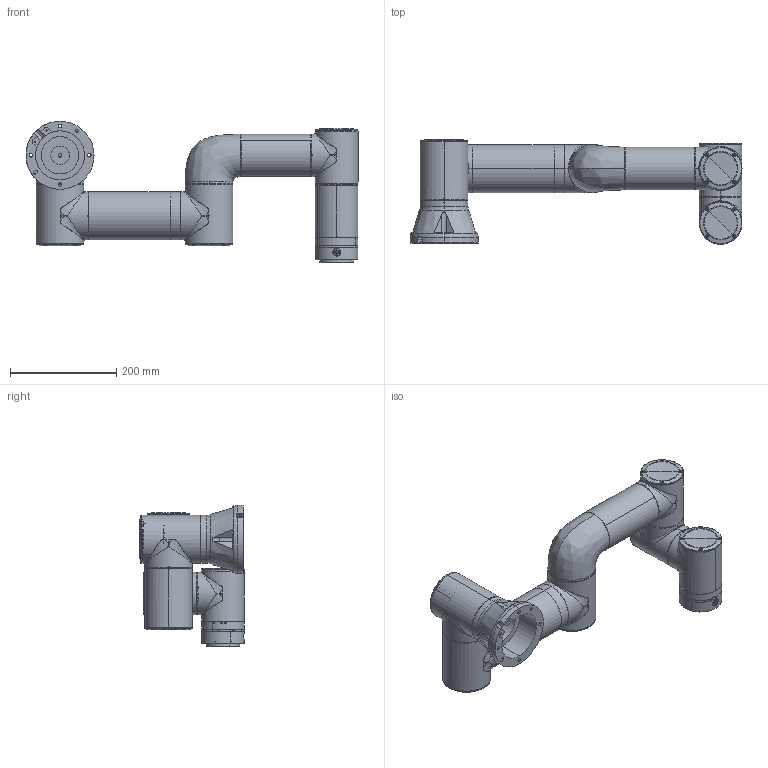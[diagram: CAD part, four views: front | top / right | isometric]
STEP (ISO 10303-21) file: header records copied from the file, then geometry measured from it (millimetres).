
FILE_DESCRIPTION (( 'STEP AP214' ), '1' );
FILE_NAME ('RD20-FR3-V6.0Èí¼þÄ£ÐÍ.STEP', '2023-03-21T09:38:43', ( '' ), ( '' ), 'SwSTEP 2.0', 'SolidWorks 2018', '' );
FILE_SCHEMA (( 'AUTOMOTIVE_DESIGN' ));
Length unit declared in the file: millimetre
Products named in the file (7): RD20-FR3-V6.0-1; RD20-FR3-V6.0-3; RD20-FR3-V6.0-2; RD20-FR3-V6.0-4; RD20-FR3-V6.0软件模型; RD20-FR3-V6.0-5; RD20-FR3-V6.0-7
Assembly tree (7 placements, depth 2):
  RD20-FR3-V6.0软件模型
    RD20-FR3-V6.0-1
    RD20-FR3-V6.0-2
    RD20-FR3-V6.0-3
    RD20-FR3-V6.0-4
    RD20-FR3-V6.0-5  x2
    RD20-FR3-V6.0-7
Bounding box: 624.01 x 195.99 x 266 mm (x, y, z)
Volume: 7039075.5 mm3; surface area: 572339.8 mm2
Topology: 22 solids, 58 shells, 3177 faces, 7475 edges, 4540 vertices
Faces by surface type: plane 956, bspline 766, cylinder 762, cone 546, sphere 85, torus 62
Entity records: 155972 total; most frequent: CARTESIAN_POINT 83053, ORIENTED_EDGE 13536, DIRECTION 11561, EDGE_CURVE 6768, AXIS2_PLACEMENT_3D 4572, VERTEX_POINT 4149, EDGE_LOOP 3133, ADVANCED_FACE 2902
